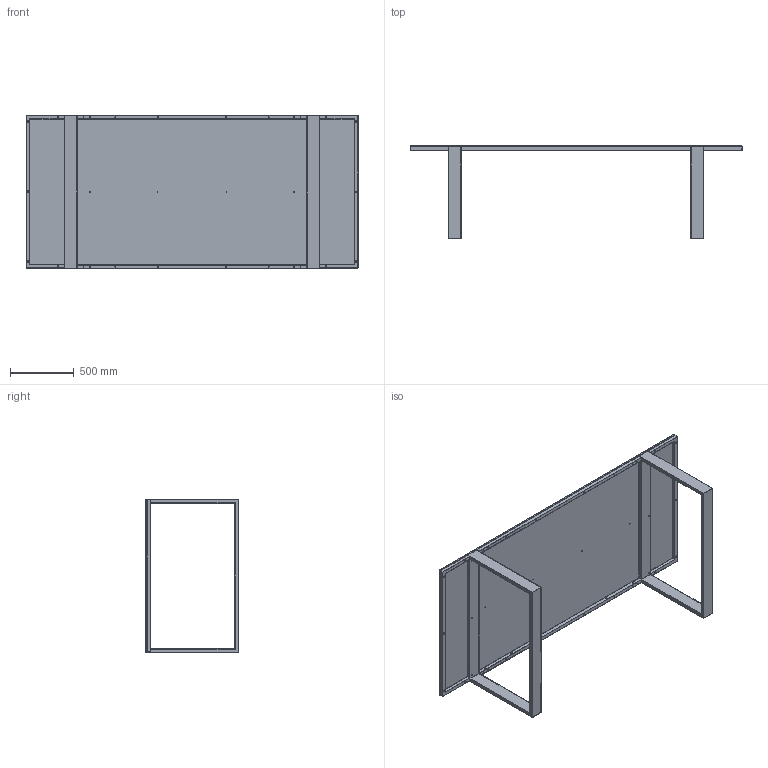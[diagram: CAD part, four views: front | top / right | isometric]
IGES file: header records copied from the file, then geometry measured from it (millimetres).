
Start section: SolidWorks IGES file using NURBS representation for surfaces
Global section: file name: G:\VICCARBE\PRODUCTOS\12-LEG-IN\04-MODELADOS (PLANOS)\SOLIDWORKS\LEG_IN 2011\ENSAMBLAJES\Mesas 3D\IGES\VICCARBE_LEBR260.IGS; native system: SolidWorks 2009; preprocessor: SolidWorks 2009; author: RUBEN; date: 111024.092243; units: millimetre
Bounding box: 2600 x 732 x 1200 mm (x, y, z)
Surface area: 11661872.6 mm2 (no closed solid volume)
Topology: 0 solids, 0 shells, 379 faces, 6840 edges, 6796 vertices
Faces by surface type: bspline 379
